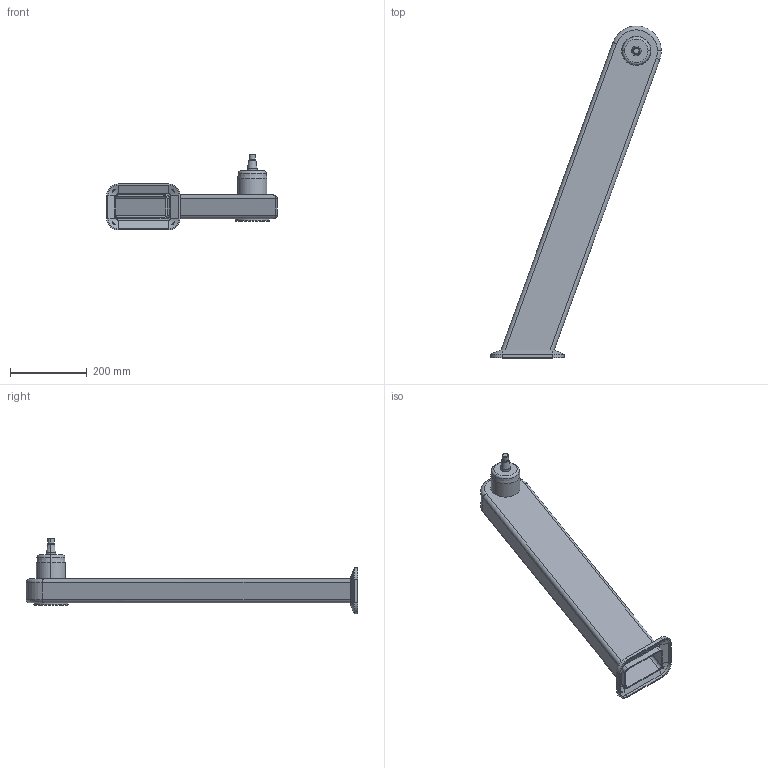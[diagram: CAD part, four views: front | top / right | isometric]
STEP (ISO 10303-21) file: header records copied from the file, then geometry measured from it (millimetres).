
FILE_DESCRIPTION (( 'STEP AP214' ), '1' );
FILE_NAME ('WP710_H800_+20.STEP', '2014-06-27T07:56:20', ( '' ), ( '' ), 'SwSTEP 2.0', 'SolidWorks 2014', '' );
FILE_SCHEMA (( 'AUTOMOTIVE_DESIGN' ));
Length unit declared in the file: millimetre
Products named in the file (1): WP710_H800_+20
Bounding box: 444.4 x 865 x 198 mm (x, y, z)
Volume: 1397854 mm3; surface area: 717051.8 mm2
Topology: 1 solids, 1 shells, 114 faces, 259 edges, 158 vertices
Faces by surface type: cylinder 42, plane 40, cone 20, torus 12
Entity records: 3308 total; most frequent: CARTESIAN_POINT 691, DIRECTION 571, ORIENTED_EDGE 518, EDGE_CURVE 259, AXIS2_PLACEMENT_3D 221, VERTEX_POINT 158, VECTOR 129, LINE 129
